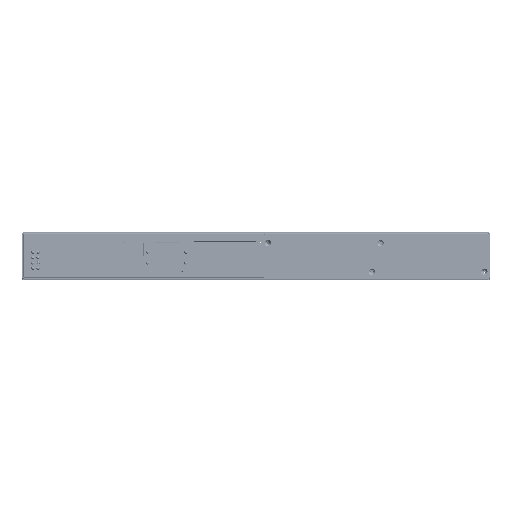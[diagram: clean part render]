
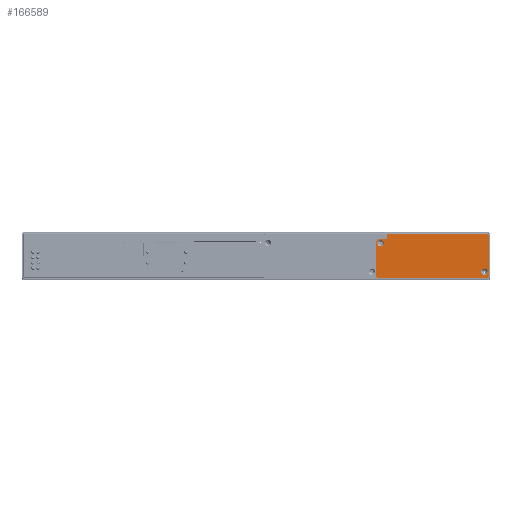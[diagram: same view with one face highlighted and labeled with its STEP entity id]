
A CAD part, top view. The second image highlights one B-rep face of the part: STEP entity #166589.
In plain terms, the highlighted planar face has unit normal (0, 0, 1).
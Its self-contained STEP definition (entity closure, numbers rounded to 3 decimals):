
#166226=DIRECTION('',(0.,1.,0.));
#166227=VECTOR('',#166226,37.8);
#166228=CARTESIAN_POINT('',(218.8,2.,138.8));
#166229=LINE('',#166228,#166227);
#166230=CARTESIAN_POINT('',(216.8,2.,138.8));
#166231=DIRECTION('',(0.,0.,1.));
#166232=DIRECTION('',(0.,-1.,0.));
#166233=AXIS2_PLACEMENT_3D('',#166230,#166231,#166232);
#166235=DIRECTION('',(1.,0.,0.));
#166236=VECTOR('',#166235,101.6);
#166237=CARTESIAN_POINT('',(115.2,0.,138.8));
#166238=LINE('',#166237,#166236);
#166239=CARTESIAN_POINT('',(115.2,2.,138.8));
#166240=DIRECTION('',(0.,0.,1.));
#166241=DIRECTION('',(-1.,0.,0.));
#166242=AXIS2_PLACEMENT_3D('',#166239,#166240,#166241);
#166244=DIRECTION('',(0.,-1.,0.));
#166245=VECTOR('',#166244,32.3);
#166246=CARTESIAN_POINT('',(113.2,34.3,138.8));
#166247=LINE('',#166246,#166245);
#166248=CARTESIAN_POINT('',(115.2,34.3,138.8));
#166249=DIRECTION('',(0.,0.,1.));
#166250=DIRECTION('',(0.,1.,0.));
#166251=AXIS2_PLACEMENT_3D('',#166248,#166249,#166250);
#166253=DIRECTION('',(-1.,0.,0.));
#166254=VECTOR('',#166253,8.);
#166255=CARTESIAN_POINT('',(123.2,36.3,138.8));
#166256=LINE('',#166255,#166254);
#166257=DIRECTION('',(0.,-1.,0.));
#166258=VECTOR('',#166257,3.5);
#166259=CARTESIAN_POINT('',(123.2,39.8,138.8));
#166260=LINE('',#166259,#166258);
#166261=CARTESIAN_POINT('',(125.2,39.8,138.8));
#166262=DIRECTION('',(0.,0.,1.));
#166263=DIRECTION('',(0.,1.,0.));
#166264=AXIS2_PLACEMENT_3D('',#166261,#166262,#166263);
#166266=DIRECTION('',(-1.,0.,0.));
#166267=VECTOR('',#166266,91.6);
#166268=CARTESIAN_POINT('',(216.8,41.8,138.8));
#166269=LINE('',#166268,#166267);
#166270=CARTESIAN_POINT('',(216.8,39.8,138.8));
#166271=DIRECTION('',(0.,0.,1.));
#166272=DIRECTION('',(1.,0.,0.));
#166273=AXIS2_PLACEMENT_3D('',#166270,#166271,#166272);
#166275=CARTESIAN_POINT('',(214.8,6.,138.8));
#166276=DIRECTION('',(0.,0.,-1.));
#166277=DIRECTION('',(1.,0.,0.));
#166278=AXIS2_PLACEMENT_3D('',#166275,#166276,#166277);
#166280=CARTESIAN_POINT('',(214.8,6.,138.8));
#166281=DIRECTION('',(0.,0.,-1.));
#166282=DIRECTION('',(0.,1.,0.));
#166283=AXIS2_PLACEMENT_3D('',#166280,#166281,#166282);
#166285=CARTESIAN_POINT('',(214.8,6.,138.8));
#166286=DIRECTION('',(0.,0.,-1.));
#166287=DIRECTION('',(-1.,0.,0.));
#166288=AXIS2_PLACEMENT_3D('',#166285,#166286,#166287);
#166290=CARTESIAN_POINT('',(214.8,6.,138.8));
#166291=DIRECTION('',(0.,0.,-1.));
#166292=DIRECTION('',(0.,-1.,0.));
#166293=AXIS2_PLACEMENT_3D('',#166290,#166291,#166292);
#166295=CARTESIAN_POINT('',(117.2,32.8,138.8));
#166296=DIRECTION('',(0.,0.,-1.));
#166297=DIRECTION('',(1.,0.,0.));
#166298=AXIS2_PLACEMENT_3D('',#166295,#166296,#166297);
#166300=CARTESIAN_POINT('',(117.2,32.8,138.8));
#166301=DIRECTION('',(0.,0.,-1.));
#166302=DIRECTION('',(0.,1.,0.));
#166303=AXIS2_PLACEMENT_3D('',#166300,#166301,#166302);
#166305=CARTESIAN_POINT('',(117.2,32.8,138.8));
#166306=DIRECTION('',(0.,0.,-1.));
#166307=DIRECTION('',(-1.,0.,0.));
#166308=AXIS2_PLACEMENT_3D('',#166305,#166306,#166307);
#166310=CARTESIAN_POINT('',(117.2,32.8,138.8));
#166311=DIRECTION('',(0.,0.,-1.));
#166312=DIRECTION('',(0.,-1.,0.));
#166313=AXIS2_PLACEMENT_3D('',#166310,#166311,#166312);
#166464=CARTESIAN_POINT('',(218.8,2.,138.8));
#166465=CARTESIAN_POINT('',(218.8,39.8,138.8));
#166466=VERTEX_POINT('',#166464);
#166467=VERTEX_POINT('',#166465);
#166468=CARTESIAN_POINT('',(216.8,0.,138.8));
#166470=VERTEX_POINT('',#166468);
#166472=CARTESIAN_POINT('',(214.8,3.,138.8));
#166473=CARTESIAN_POINT('',(211.8,6.,138.8));
#166474=VERTEX_POINT('',#166472);
#166475=VERTEX_POINT('',#166473);
#166476=CARTESIAN_POINT('',(217.8,6.,138.8));
#166477=VERTEX_POINT('',#166476);
#166478=CARTESIAN_POINT('',(216.8,41.8,138.8));
#166479=VERTEX_POINT('',#166478);
#166484=CARTESIAN_POINT('',(117.2,29.8,138.8));
#166485=CARTESIAN_POINT('',(114.2,32.8,138.8));
#166486=VERTEX_POINT('',#166484);
#166487=VERTEX_POINT('',#166485);
#166488=CARTESIAN_POINT('',(120.2,32.8,138.8));
#166489=VERTEX_POINT('',#166488);
#166490=CARTESIAN_POINT('',(214.8,9.,138.8));
#166491=VERTEX_POINT('',#166490);
#166492=CARTESIAN_POINT('',(125.2,41.8,138.8));
#166493=VERTEX_POINT('',#166492);
#166494=CARTESIAN_POINT('',(115.2,0.,138.8));
#166495=VERTEX_POINT('',#166494);
#166498=CARTESIAN_POINT('',(117.2,35.8,138.8));
#166499=VERTEX_POINT('',#166498);
#166504=CARTESIAN_POINT('',(123.2,39.8,138.8));
#166505=VERTEX_POINT('',#166504);
#166508=CARTESIAN_POINT('',(113.2,2.,138.8));
#166509=VERTEX_POINT('',#166508);
#166516=CARTESIAN_POINT('',(123.2,36.3,138.8));
#166517=VERTEX_POINT('',#166516);
#166520=CARTESIAN_POINT('',(113.2,34.3,138.8));
#166521=VERTEX_POINT('',#166520);
#166528=CARTESIAN_POINT('',(115.2,36.3,138.8));
#166529=VERTEX_POINT('',#166528);
#166540=CARTESIAN_POINT('',(166.,20.9,138.8));
#166541=DIRECTION('',(0.,0.,1.));
#166542=DIRECTION('',(1.,0.,0.));
#166543=AXIS2_PLACEMENT_3D('',#166540,#166541,#166542);
#166544=PLANE('',#166543);
#166546=ORIENTED_EDGE('',*,*,#166545,.F.);
#166548=ORIENTED_EDGE('',*,*,#166547,.F.);
#166550=ORIENTED_EDGE('',*,*,#166549,.F.);
#166552=ORIENTED_EDGE('',*,*,#166551,.F.);
#166554=ORIENTED_EDGE('',*,*,#166553,.F.);
#166556=ORIENTED_EDGE('',*,*,#166555,.F.);
#166558=ORIENTED_EDGE('',*,*,#166557,.F.);
#166560=ORIENTED_EDGE('',*,*,#166559,.F.);
#166562=ORIENTED_EDGE('',*,*,#166561,.F.);
#166564=ORIENTED_EDGE('',*,*,#166563,.F.);
#166566=ORIENTED_EDGE('',*,*,#166565,.F.);
#166567=EDGE_LOOP('',(#166546,#166548,#166550,#166552,#166554,#166556,#166558,
#166560,#166562,#166564,#166566));
#166568=FACE_OUTER_BOUND('',#166567,.F.);
#166570=ORIENTED_EDGE('',*,*,#166569,.F.);
#166572=ORIENTED_EDGE('',*,*,#166571,.F.);
#166574=ORIENTED_EDGE('',*,*,#166573,.F.);
#166576=ORIENTED_EDGE('',*,*,#166575,.F.);
#166577=EDGE_LOOP('',(#166570,#166572,#166574,#166576));
#166578=FACE_BOUND('',#166577,.F.);
#166580=ORIENTED_EDGE('',*,*,#166579,.F.);
#166582=ORIENTED_EDGE('',*,*,#166581,.F.);
#166584=ORIENTED_EDGE('',*,*,#166583,.F.);
#166586=ORIENTED_EDGE('',*,*,#166585,.F.);
#166587=EDGE_LOOP('',(#166580,#166582,#166584,#166586));
#166588=FACE_BOUND('',#166587,.F.);
#166589=ADVANCED_FACE('',(#166568,#166578,#166588),#166544,.T.);
#166234=CIRCLE('',#166233,2.);
#166243=CIRCLE('',#166242,2.);
#166252=CIRCLE('',#166251,2.);
#166265=CIRCLE('',#166264,2.);
#166274=CIRCLE('',#166273,2.);
#166279=CIRCLE('',#166278,3.);
#166284=CIRCLE('',#166283,3.);
#166289=CIRCLE('',#166288,3.);
#166294=CIRCLE('',#166293,3.);
#166299=CIRCLE('',#166298,3.);
#166304=CIRCLE('',#166303,3.);
#166309=CIRCLE('',#166308,3.);
#166314=CIRCLE('',#166313,3.);
#166545=EDGE_CURVE('',#166466,#166467,#166229,.T.);
#166547=EDGE_CURVE('',#166470,#166466,#166234,.T.);
#166549=EDGE_CURVE('',#166495,#166470,#166238,.T.);
#166551=EDGE_CURVE('',#166509,#166495,#166243,.T.);
#166553=EDGE_CURVE('',#166521,#166509,#166247,.T.);
#166555=EDGE_CURVE('',#166529,#166521,#166252,.T.);
#166557=EDGE_CURVE('',#166517,#166529,#166256,.T.);
#166559=EDGE_CURVE('',#166505,#166517,#166260,.T.);
#166561=EDGE_CURVE('',#166493,#166505,#166265,.T.);
#166563=EDGE_CURVE('',#166479,#166493,#166269,.T.);
#166565=EDGE_CURVE('',#166467,#166479,#166274,.T.);
#166569=EDGE_CURVE('',#166477,#166474,#166279,.T.);
#166571=EDGE_CURVE('',#166491,#166477,#166284,.T.);
#166573=EDGE_CURVE('',#166475,#166491,#166289,.T.);
#166575=EDGE_CURVE('',#166474,#166475,#166294,.T.);
#166579=EDGE_CURVE('',#166489,#166486,#166299,.T.);
#166581=EDGE_CURVE('',#166499,#166489,#166304,.T.);
#166583=EDGE_CURVE('',#166487,#166499,#166309,.T.);
#166585=EDGE_CURVE('',#166486,#166487,#166314,.T.);
